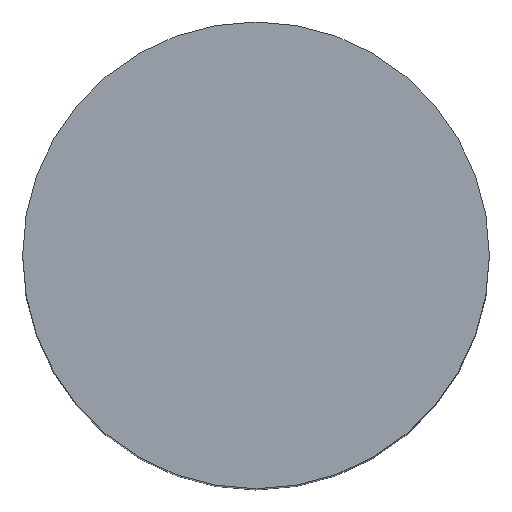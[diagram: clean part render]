
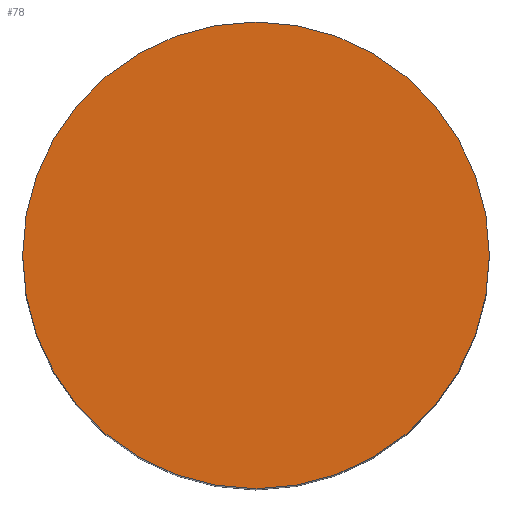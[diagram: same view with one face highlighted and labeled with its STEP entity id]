
A CAD part, top view. The second image highlights one B-rep face of the part: STEP entity #78.
In plain terms, the highlighted planar face has unit normal (0, 0, 1).
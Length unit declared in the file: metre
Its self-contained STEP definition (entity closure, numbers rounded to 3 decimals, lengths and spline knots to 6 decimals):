
#27=ORIENTED_EDGE('',*,*,#41,.T.);
#41=EDGE_CURVE('',#49,#49,#54,.T.);
#49=VERTEX_POINT('',#141);
#54=CIRCLE('',#99,0.0065);
#60=EDGE_LOOP('',(#27));
#68=FACE_BOUND('',#60,.T.);
#73=PLANE('',#100);
#78=ADVANCED_FACE('',(#68),#73,.T.);
#99=AXIS2_PLACEMENT_3D('',#140,#116,#117);
#100=AXIS2_PLACEMENT_3D('',#142,#118,#119);
#116=DIRECTION('',(0.,0.,1.));
#117=DIRECTION('',(1.,0.,0.));
#118=DIRECTION('',(0.,0.,1.));
#119=DIRECTION('',(1.,0.,0.));
#140=CARTESIAN_POINT('',(0.024563,-0.059438,0.0209));
#141=CARTESIAN_POINT('',(0.031063,-0.059438,0.0209));
#142=CARTESIAN_POINT('',(0.024563,-0.059438,0.0209));
